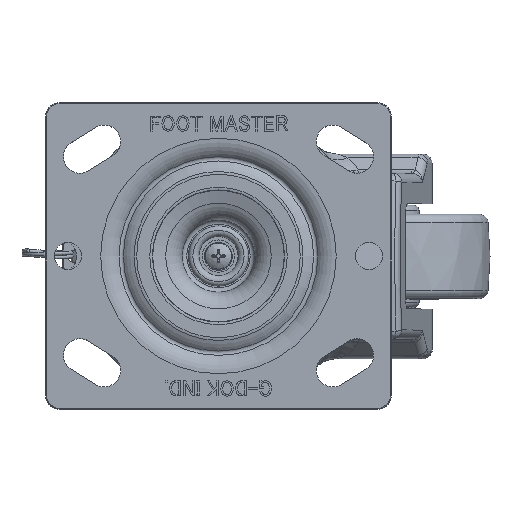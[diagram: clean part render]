
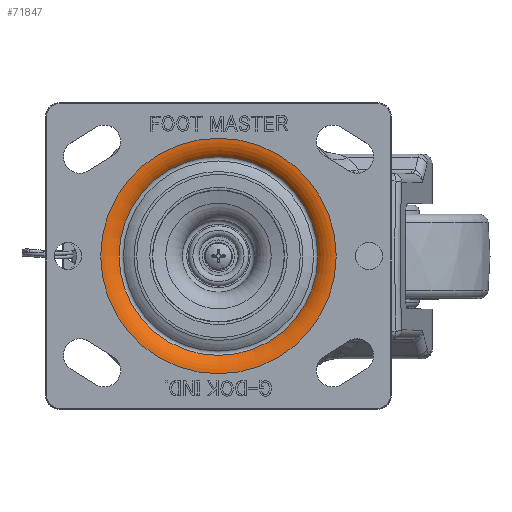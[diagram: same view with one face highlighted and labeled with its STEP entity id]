
A CAD part, top view. The second image highlights one B-rep face of the part: STEP entity #71847.
In plain terms, the highlighted toroidal (fillet/blend) face has major radius 39.119 mm and minor radius 8 mm.
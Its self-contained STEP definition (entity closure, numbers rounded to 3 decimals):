
#580=TOROIDAL_SURFACE('',#77930,39.119,8.);
#13358=FACE_OUTER_BOUND('',#17634,.T.);
#17634=EDGE_LOOP('',(#62890,#62891,#62892,#62893,#62894,#62895));
#29472=CIRCLE('',#77817,39.119);
#29473=CIRCLE('',#77818,39.119);
#29529=CIRCLE('',#77931,8.);
#29530=CIRCLE('',#77932,33.013);
#29531=CIRCLE('',#77933,33.013);
#35056=VERTEX_POINT('',#143517);
#35057=VERTEX_POINT('',#143518);
#35136=VERTEX_POINT('',#143781);
#35137=VERTEX_POINT('',#143783);
#44498=EDGE_CURVE('',#35056,#35057,#29472,.T.);
#44499=EDGE_CURVE('',#35057,#35056,#29473,.T.);
#44625=EDGE_CURVE('',#35057,#35136,#29529,.T.);
#44626=EDGE_CURVE('',#35136,#35137,#29530,.T.);
#44627=EDGE_CURVE('',#35137,#35136,#29531,.T.);
#62890=ORIENTED_EDGE('',*,*,#44498,.T.);
#62891=ORIENTED_EDGE('',*,*,#44625,.T.);
#62892=ORIENTED_EDGE('',*,*,#44626,.T.);
#62893=ORIENTED_EDGE('',*,*,#44627,.T.);
#62894=ORIENTED_EDGE('',*,*,#44625,.F.);
#62895=ORIENTED_EDGE('',*,*,#44499,.T.);
#71847=ADVANCED_FACE('',(#13358),#580,.T.);
#77817=AXIS2_PLACEMENT_3D('',#143519,#92367,#92368);
#77818=AXIS2_PLACEMENT_3D('',#143520,#92369,#92370);
#77930=AXIS2_PLACEMENT_3D('',#143780,#92663,#92664);
#77931=AXIS2_PLACEMENT_3D('',#143782,#92665,#92666);
#77932=AXIS2_PLACEMENT_3D('',#143784,#92667,#92668);
#77933=AXIS2_PLACEMENT_3D('',#143785,#92669,#92670);
#92367=DIRECTION('center_axis',(0.,0.,
1.));
#92368=DIRECTION('ref_axis',(-1.,0.,0.));
#92369=DIRECTION('center_axis',(0.,0.,
1.));
#92370=DIRECTION('ref_axis',(-1.,0.,0.));
#92663=DIRECTION('center_axis',(0.,0.,
-1.));
#92664=DIRECTION('ref_axis',(-1.,0.,0.));
#92665=DIRECTION('center_axis',(0.,-1.,0.));
#92666=DIRECTION('ref_axis',(1.,0.,0.));
#92667=DIRECTION('center_axis',(0.,0.,
-1.));
#92668=DIRECTION('ref_axis',(1.,0.,0.));
#92669=DIRECTION('center_axis',(0.,0.,
-1.));
#92670=DIRECTION('ref_axis',(1.,0.,0.));
#143517=CARTESIAN_POINT('',(-39.119,0.,0.04));
#143518=CARTESIAN_POINT('',(39.119,0.,0.04));
#143519=CARTESIAN_POINT('Origin',(0.,0.,
0.04));
#143520=CARTESIAN_POINT('Origin',(0.,0.,
0.04));
#143780=CARTESIAN_POINT('Origin',(0.,0.,
-7.96));
#143781=CARTESIAN_POINT('',(33.013,0.,-2.791));
#143782=CARTESIAN_POINT('Origin',(39.119,0.,
-7.96));
#143783=CARTESIAN_POINT('',(-33.013,0.,-2.791));
#143784=CARTESIAN_POINT('Origin',(0.,0.,
-2.791));
#143785=CARTESIAN_POINT('Origin',(0.,0.,
-2.791));
